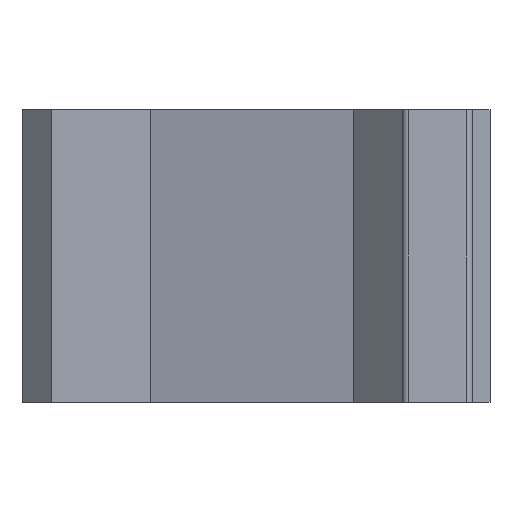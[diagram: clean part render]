
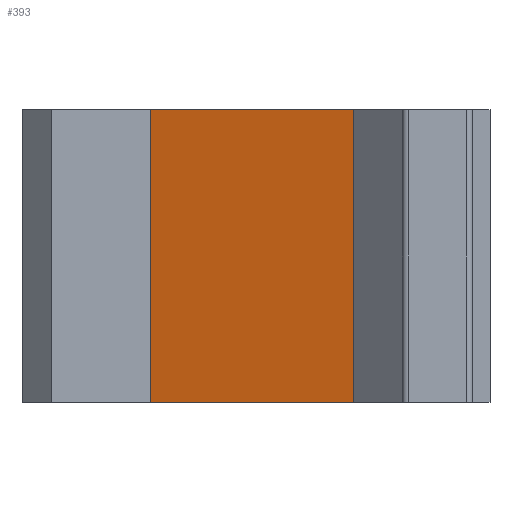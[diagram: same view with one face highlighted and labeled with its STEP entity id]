
A CAD part, front view. The second image highlights one B-rep face of the part: STEP entity #393.
In plain terms, the highlighted planar face has unit normal (-0.265, -0.964, 0).
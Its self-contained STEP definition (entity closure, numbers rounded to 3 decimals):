
#68 = PLANE ( 'NONE',  #200 ) ;
#78 = FACE_OUTER_BOUND ( 'NONE', #735, .T. ) ;
#154 = ORIENTED_EDGE ( 'NONE', *, *, #275, .T. ) ;
#163 = LINE ( 'NONE', #817, #643 ) ;
#200 = AXIS2_PLACEMENT_3D ( 'NONE', #905, #576, #1114 ) ;
#204 = EDGE_CURVE ( 'NONE', #506, #747, #816, .T. ) ;
#222 = DIRECTION ( 'NONE',  ( 0., 0., -1. ) ) ;
#225 = ORIENTED_EDGE ( 'NONE', *, *, #204, .F. ) ;
#275 = EDGE_CURVE ( 'NONE', #418, #747, #520, .T. ) ;
#287 = CARTESIAN_POINT ( 'NONE',  ( -27.493, 23.4, 0. ) ) ;
#299 = VERTEX_POINT ( 'NONE', #980 ) ;
#305 = DIRECTION ( 'NONE',  ( 0., 0., -1. ) ) ;
#316 = VECTOR ( 'NONE', #222, 1000. ) ;
#393 = ADVANCED_FACE ( 'NONE', ( #78 ), #68, .F. ) ;
#418 = VERTEX_POINT ( 'NONE', #287 ) ;
#506 = VERTEX_POINT ( 'NONE', #1121 ) ;
#520 = LINE ( 'NONE', #893, #613 ) ;
#552 = EDGE_CURVE ( 'NONE', #299, #418, #163, .T. ) ;
#576 = DIRECTION ( 'NONE',  ( 0.265, 0.964, 0. ) ) ;
#613 = VECTOR ( 'NONE', #1082, 1000. ) ;
#634 = CARTESIAN_POINT ( 'NONE',  ( -10.204, 18.641, 25. ) ) ;
#643 = VECTOR ( 'NONE', #305, 1000. ) ;
#662 = CARTESIAN_POINT ( 'NONE',  ( -10.204, 18.641, 0. ) ) ;
#689 = LINE ( 'NONE', #1139, #741 ) ;
#735 = EDGE_LOOP ( 'NONE', ( #154, #225, #1185, #1007 ) ) ;
#741 = VECTOR ( 'NONE', #854, 1000. ) ;
#747 = VERTEX_POINT ( 'NONE', #662 ) ;
#816 = LINE ( 'NONE', #634, #316 ) ;
#817 = CARTESIAN_POINT ( 'NONE',  ( -27.493, 23.4, 25. ) ) ;
#854 = DIRECTION ( 'NONE',  ( 0.964, -0.265, 0. ) ) ;
#893 = CARTESIAN_POINT ( 'NONE',  ( -10.204, 18.641, 0. ) ) ;
#905 = CARTESIAN_POINT ( 'NONE',  ( -10.204, 18.641, 25. ) ) ;
#980 = CARTESIAN_POINT ( 'NONE',  ( -27.493, 23.4, 25. ) ) ;
#1007 = ORIENTED_EDGE ( 'NONE', *, *, #552, .T. ) ;
#1082 = DIRECTION ( 'NONE',  ( 0.964, -0.265, 0. ) ) ;
#1114 = DIRECTION ( 'NONE',  ( -0.964, 0.265, 0. ) ) ;
#1121 = CARTESIAN_POINT ( 'NONE',  ( -10.204, 18.641, 25. ) ) ;
#1139 = CARTESIAN_POINT ( 'NONE',  ( -10.204, 18.641, 25. ) ) ;
#1185 = ORIENTED_EDGE ( 'NONE', *, *, #1202, .F. ) ;
#1202 = EDGE_CURVE ( 'NONE', #299, #506, #689, .T. ) ;
